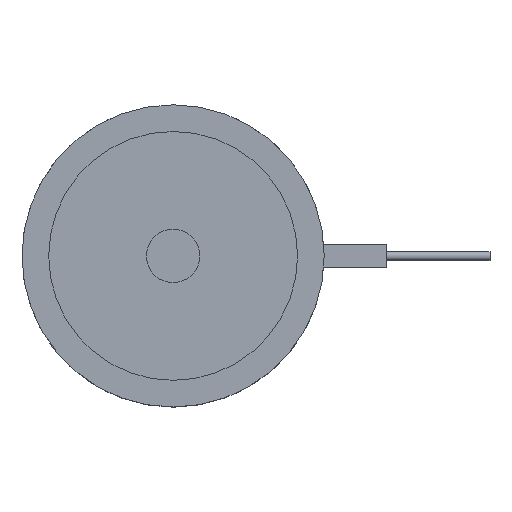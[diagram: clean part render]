
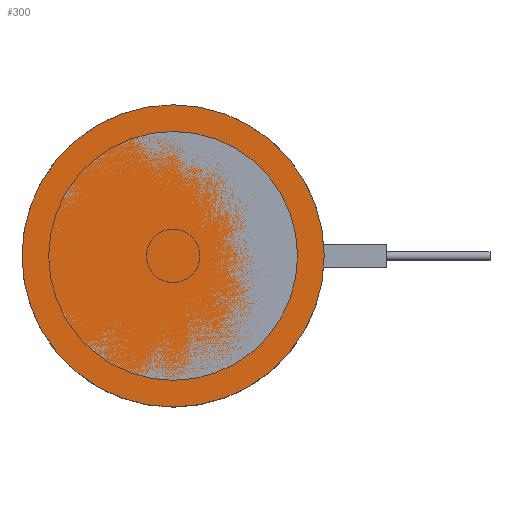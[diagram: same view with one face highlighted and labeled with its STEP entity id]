
A CAD part, top view. The second image highlights one B-rep face of the part: STEP entity #300.
In plain terms, the highlighted planar face has unit normal (0, 0, 1).
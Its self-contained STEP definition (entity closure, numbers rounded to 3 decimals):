
#220=CIRCLE('',#1061,17.);
#300=ADVANCED_FACE('',(#398),#363,.F.);
#363=PLANE('',#1062);
#398=FACE_OUTER_BOUND('',#472,.T.);
#472=EDGE_LOOP('',(#602));
#602=ORIENTED_EDGE('',*,*,#871,.F.);
#783=VERTEX_POINT('',#1537);
#871=EDGE_CURVE('',#783,#783,#220,.T.);
#1061=AXIS2_PLACEMENT_3D('',#1536,#1249,#1250);
#1062=AXIS2_PLACEMENT_3D('',#1538,#1251,#1252);
#1249=DIRECTION('',(0.,0.,-1.));
#1250=DIRECTION('',(-1.,0.,0.));
#1251=DIRECTION('',(0.,0.,-1.));
#1252=DIRECTION('',(-1.,0.,0.));
#1536=CARTESIAN_POINT('',(0.,0.,0.));
#1537=CARTESIAN_POINT('',(-17.,0.,0.));
#1538=CARTESIAN_POINT('',(0.,0.,0.));
